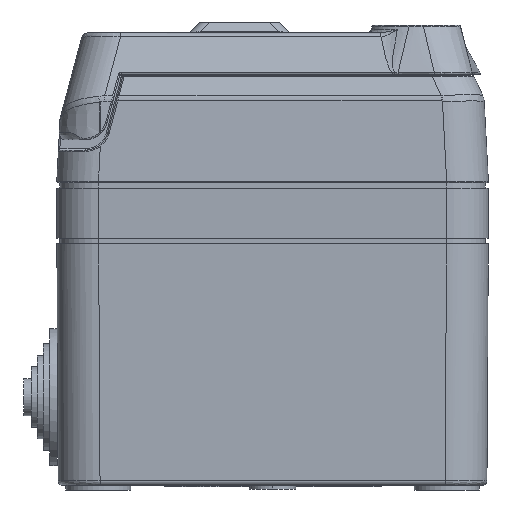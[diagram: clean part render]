
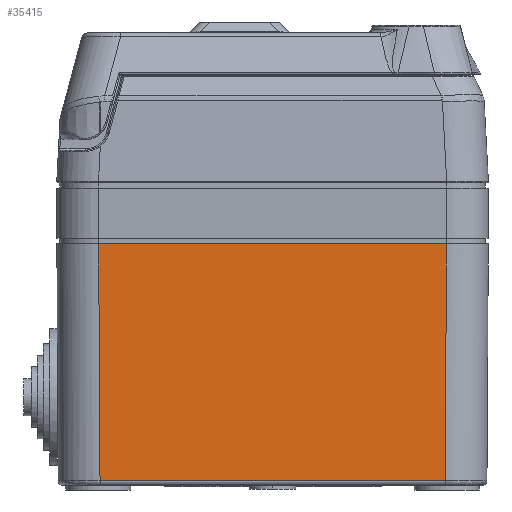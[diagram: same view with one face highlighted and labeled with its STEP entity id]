
A CAD part, left-side view. The second image highlights one B-rep face of the part: STEP entity #35415.
In plain terms, the highlighted planar face has unit normal (-1, 0, -0.006).
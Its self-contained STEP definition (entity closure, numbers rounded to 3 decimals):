
#5374=CARTESIAN_POINT('',(-44.666,-37.166,
0.994));
#5379=DIRECTION('',(0.,1.,0.));
#5380=VECTOR('',#5379,74.332);
#5381=CARTESIAN_POINT('',(-44.666,-37.166,
0.994));
#5382=LINE('5414',#5381,#5380);
#5386=DIRECTION('',(0.006,-0.006,-1.));
#5387=VECTOR('',#5386,51.008);
#5388=CARTESIAN_POINT('',(-44.963,37.463,52.));
#5389=LINE('5419',#5388,#5387);
#5393=DIRECTION('',(0.006,0.006,-1.));
#5394=VECTOR('',#5393,51.008);
#5395=CARTESIAN_POINT('',(-44.963,-37.463,52.));
#5396=LINE('5418',#5395,#5394);
#5420=CARTESIAN_POINT('',(-44.963,37.463,52.));
#5488=CARTESIAN_POINT('',(-44.963,-37.463,52.));
#5493=DIRECTION('',(0.,-1.,0.));
#5494=VECTOR('',#5493,74.926);
#5495=CARTESIAN_POINT('',(-44.963,37.463,52.));
#5496=LINE('5404',#5495,#5494);
#29424=VERTEX_POINT('',#5488);
#29429=VERTEX_POINT('',#5420);
#29460=VERTEX_POINT('',#5374);
#29463=CARTESIAN_POINT('',(-44.666,37.166,
0.994));
#29464=VERTEX_POINT('',#29463);
#35402=CARTESIAN_POINT('',(-45.,48.7,58.4));
#35403=DIRECTION('',(-1.,0.,-0.006));
#35404=DIRECTION('',(0.,-1.,0.));
#35405=AXIS2_PLACEMENT_3D('',#35402,#35403,#35404);
#35406=PLANE('3718',#35405);
#35407=ORIENTED_EDGE('5414',*,*,#35020,.T.);
#35409=ORIENTED_EDGE('5419',*,*,#35408,.F.);
#35411=ORIENTED_EDGE('5404',*,*,#35410,.T.);
#35412=ORIENTED_EDGE('5418',*,*,#35387,.T.);
#35413=EDGE_LOOP('3718',(#35407,#35409,#35411,#35412));
#35414=FACE_OUTER_BOUND('3718',#35413,.F.);
#35020=EDGE_CURVE('5414',#29460,#29464,#5382,.T.);
#35387=EDGE_CURVE('5418',#29424,#29460,#5396,.T.);
#35408=EDGE_CURVE('5419',#29429,#29464,#5389,.T.);
#35410=EDGE_CURVE('5404',#29429,#29424,#5496,.T.);
#35415=ADVANCED_FACE('3718',(#35414),#35406,.T.);
